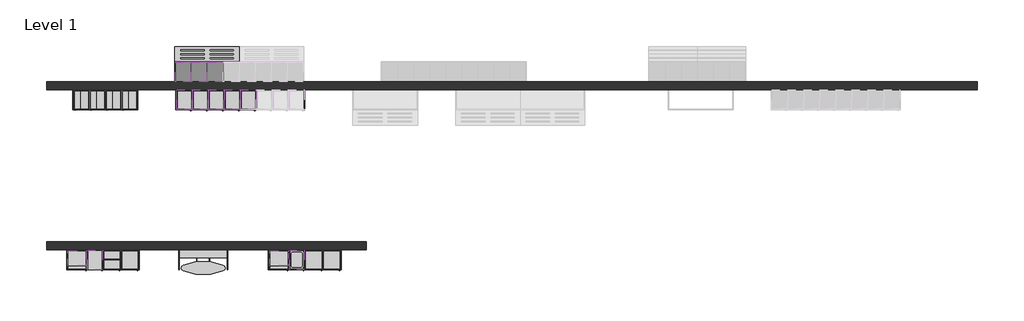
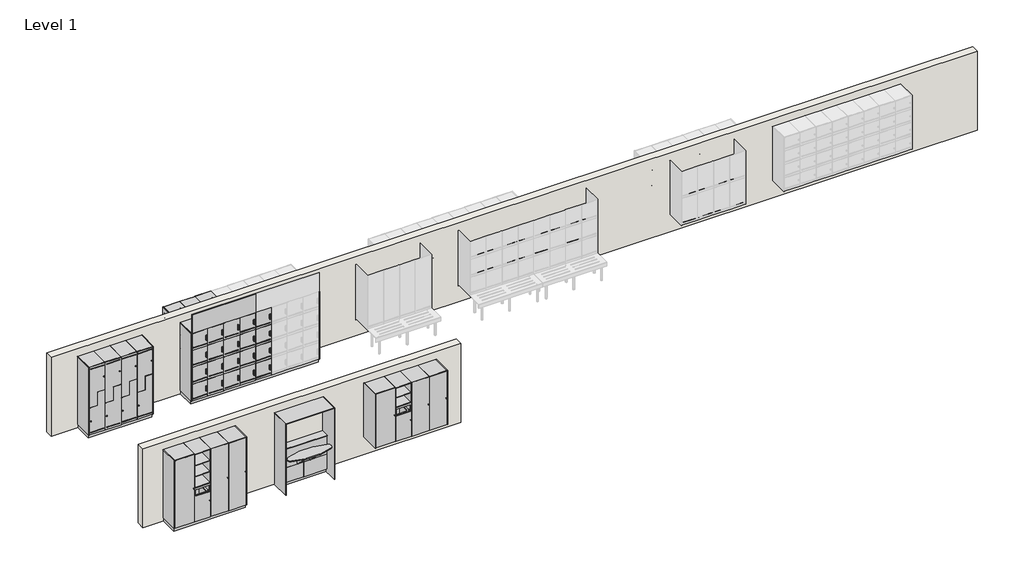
# One storey, part 1 of 3: 118 furniture elements, 2 walls.
"""IFC4 building model written with IfcOpenShell, lengths in millimetres."""

from ifc_helpers import new_model, si_unit, origin, origin_with_axes, place, context, project, spatial, polyline, outline, extrude, transform, mapped, element, save
from components import furniture_8c00c06e, furniture_f3d205c9, furniture_8214ae09, furniture_fe364a06, furniture_aa930519, standard_2dcb62da, standard_f5ae554c, standard_45df0485, standard_98e0e482, standard_d3161605, standard_4a91ac64, standard_77ee1bcb, standard_e3a21a26, standard_e2bbb5fc, standard_e0f8491c, standard_40445af7, standard_a614ba5f, standard_03c1f8a1, standard_9bb63482, standard_4930f884, standard_86fa131c, standard_540d4d76, standard_fa3f27c9, standard_7234d687, standard_b71e501f, standard_578dc294, standard_a6131b2d, standard_82cc17a7, standard_a539c340, standard_99a499ae, standard_25a9957e, standard_c490a989, standard_c9a665b5, standard_0a05bd14, standard_d1edd0f1, standard_a5c37325, standard_9a15c5b4

model = new_model("IFC4")

# Units and contexts
model_context = context("Model", 3, world=origin())
ifc_project = project(units=[si_unit("LENGTHUNIT", "METRE", prefix="MILLI")], contexts=[model_context])

# Site, building, storey
site = spatial("IfcSite", under=ifc_project)
building = spatial("IfcBuilding", under=site)
storey = spatial("IfcBuildingStorey", under=building, Name="Level 1", Elevation=0.0)

# Furniture
placement = place(None, origin())
furniture_shape = furniture_8c00c06e(model_context)
element("IfcFurniture", 1, ObjectType="Lockers-Bay-Duracube-Duraloc : LPM-1900h x 500d x 400w with 100h x 50d Plinth-Stepped", at=placement, inside=storey, context=model_context, shape_type="MappedRepresentation", body=[
    mapped(furniture_shape, transform((-10635.1575415, 2567.7422336, 0.0), x_axis=(1.0, 0.0, 0.0), y_axis=(0.0, 1.0, 0.0), z_axis=(0.0, 0.0, 1.0))),
])
furniture_2_shape = furniture_f3d205c9(model_context)
element("IfcFurniture", 2, ObjectType="Lockers-Bay-Duracube-Duraloc : LPM-1900h x 500d x 400w with 100h x 50d Plinth", at=placement, inside=storey, context=model_context, shape_type="MappedRepresentation", body=[
    mapped(furniture_2_shape, transform((-8055.1575415, 2567.7422336, 0.0), x_axis=(1.0, 0.0, 0.0), y_axis=(0.0, 1.0, 0.0), z_axis=(0.0, 0.0, 1.0))),
])
furniture_3_shape = furniture_8214ae09(model_context)
element("IfcFurniture", 3, ObjectType="Lockers-Bay-Duracube-Duraloc : LWM-1900h x 500d x 400w @ 470h Wall", at=placement, inside=storey, context=model_context, shape_type="MappedRepresentation", body=[
    mapped(furniture_3_shape, transform((-7668.1575415, 3267.7422336, 0.0), x_axis=(-1.0, 0.0, 0.0), y_axis=(0.0, -1.0, 0.0), z_axis=(0.0, 0.0, 1.0))),
])
furniture_4_shape = furniture_fe364a06(model_context)
element("IfcFurniture", 4, ObjectType="Lockers-Bay-Duracube-End of Trip : LPM-1900h x 500d with 100h x 50d Plinth", at=placement, inside=storey, context=model_context, shape_type="MappedRepresentation", body=[
    mapped(furniture_4_shape, transform((-10795.1575415, -1432.2577664, 0.0), x_axis=(1.0, 0.0, 0.0), y_axis=(0.0, 1.0, 0.0), z_axis=(0.0, 0.0, 1.0))),
])
furniture_5_shape = furniture_aa930519(model_context)
element("IfcFurniture", 5, ObjectType="Lockers-Bay-Duracube-End of Trip : LWM-1900h x 500d @ 470h Wall", at=placement, inside=storey, context=model_context, shape_type="MappedRepresentation", body=[
    mapped(furniture_5_shape, transform((-5743.1575415, -1432.2577664, 0.0), x_axis=(1.0, 0.0, 0.0), y_axis=(0.0, 1.0, 0.0), z_axis=(0.0, 0.0, 1.0))),
])
standard_shape = standard_2dcb62da(model_context)
element("IfcFurniture", 6, ObjectType="X_Bench-Foot-Duracube-Wall Assembly : Standard", at=placement, inside=storey, context=model_context, shape_type="MappedRepresentation", body=[
    mapped(standard_shape, transform((-7229.9572151, 3517.7422336, 0.0), x_axis=(-1.0, 0.0, 0.0), y_axis=(0.0, -1.0, 0.0), z_axis=(0.0, 0.0, 1.0))),
])
standard_2_shape = standard_f5ae554c(model_context)
element("IfcFurniture", 7, ObjectType="X_Bench-Foot-Duracube-Wall Assembly : Standard", at=placement, inside=storey, context=model_context, shape_type="MappedRepresentation", body=[
    mapped(standard_2_shape, transform((-8012.357868, 3517.7422336, 0.0), x_axis=(1.0, 0.0, 0.0), y_axis=(0.0, 1.0, 0.0), z_axis=(0.0, 0.0, 1.0))),
])
standard_3_shape = standard_45df0485(model_context)
element("IfcFurniture", 8, ObjectType="X_Vanity-Angle-Duracube-Bench Support : Standard", at=placement, inside=storey, context=model_context, shape_type="MappedRepresentation", body=[
    mapped(standard_3_shape, transform((-7229.9572151, 3017.7422336, 417.0), x_axis=(-1.0, 0.0, 0.0), y_axis=(0.0, -1.0, 0.0), z_axis=(0.0, 0.0, 1.0))),
])
standard_4_shape = standard_98e0e482(model_context)
element("IfcFurniture", 9, ObjectType="X_Bench-Wall-Duracube-Locker : Standard", at=placement, inside=storey, context=model_context, shape_type="MappedRepresentation", body=[
    mapped(standard_4_shape, transform((-7229.9572151, 3110.2422336, 0.0), x_axis=(-1.0, 0.0, 0.0), y_axis=(0.0, -1.0, 0.0), z_axis=(0.0, 0.0, 1.0))),
])
standard_5_shape = standard_d3161605(model_context)
element("IfcFurniture", 10, ObjectType="X_Locker-Duracube-Bay : Standard", at=placement, inside=storey, context=model_context, shape_type="MappedRepresentation", body=[
    mapped(standard_5_shape, transform((-9266.857868, 2817.7422336, 1180.0), x_axis=(1.0, 0.0, 0.0), y_axis=(0.0, 1.0, 0.0), z_axis=(0.0, 0.0, 1.0))),
])
element("IfcFurniture", 11, ObjectType="X_Locker-Duracube-Bay : Standard", at=placement, inside=storey, context=model_context, shape_type="MappedRepresentation", body=[
    mapped(standard_5_shape, transform((-9666.857868, 2817.7422336, 1180.0), x_axis=(1.0, 0.0, 0.0), y_axis=(0.0, 1.0, 0.0), z_axis=(0.0, 0.0, 1.0))),
])
element("IfcFurniture", 12, ObjectType="X_Locker-Duracube-Bay : Standard", at=placement, inside=storey, context=model_context, shape_type="MappedRepresentation", body=[
    mapped(standard_5_shape, transform((-10066.857868, 2817.7422336, 1180.0), x_axis=(1.0, 0.0, 0.0), y_axis=(0.0, 1.0, 0.0), z_axis=(0.0, 0.0, 1.0))),
])
element("IfcFurniture", 13, ObjectType="X_Locker-Duracube-Bay : Standard", at=placement, inside=storey, context=model_context, shape_type="MappedRepresentation", body=[
    mapped(standard_5_shape, transform((-10466.857868, 2817.7422336, 1180.0), x_axis=(1.0, 0.0, 0.0), y_axis=(0.0, 1.0, 0.0), z_axis=(0.0, 0.0, 1.0))),
])
standard_6_shape = standard_4a91ac64(model_context)
element("IfcFurniture", 14, ObjectType="X_Locker-Duracube-Door : Standard", at=placement, inside=storey, context=model_context, shape_type="MappedRepresentation", body=[
    mapped(standard_6_shape, transform((-9266.857868, 2330.7422336, 1180.0), x_axis=(1.0, 0.0, 0.0), y_axis=(0.0, 1.0, 0.0), z_axis=(0.0, 0.0, 1.0))),
])
element("IfcFurniture", 15, ObjectType="X_Locker-Duracube-Door : Standard", at=placement, inside=storey, context=model_context, shape_type="MappedRepresentation", body=[
    mapped(standard_6_shape, transform((-9666.857868, 2330.7422336, 1180.0), x_axis=(1.0, 0.0, 0.0), y_axis=(0.0, 1.0, 0.0), z_axis=(0.0, 0.0, 1.0))),
])
element("IfcFurniture", 16, ObjectType="X_Locker-Duracube-Door : Standard", at=placement, inside=storey, context=model_context, shape_type="MappedRepresentation", body=[
    mapped(standard_6_shape, transform((-10066.857868, 2330.7422336, 1180.0), x_axis=(1.0, 0.0, 0.0), y_axis=(0.0, 1.0, 0.0), z_axis=(0.0, 0.0, 1.0))),
])
element("IfcFurniture", 17, ObjectType="X_Locker-Duracube-Door : Standard", at=placement, inside=storey, context=model_context, shape_type="MappedRepresentation", body=[
    mapped(standard_6_shape, transform((-10466.857868, 2330.7422336, 1180.0), x_axis=(1.0, 0.0, 0.0), y_axis=(0.0, 1.0, 0.0), z_axis=(0.0, 0.0, 1.0))),
])
standard_7_shape = standard_77ee1bcb(model_context)
element("IfcFurniture", 18, ObjectType="X_Locker-Duracube-Bay : Standard", at=placement, inside=storey, context=model_context, shape_type="MappedRepresentation", body=[
    mapped(standard_7_shape, transform((-9266.857868, 2817.7422336, 100.0), x_axis=(1.0, 0.0, 0.0), y_axis=(0.0, 1.0, 0.0), z_axis=(0.0, 0.0, 1.0))),
])
element("IfcFurniture", 19, ObjectType="X_Locker-Duracube-Bay : Standard", at=placement, inside=storey, context=model_context, shape_type="MappedRepresentation", body=[
    mapped(standard_7_shape, transform((-9666.857868, 2817.7422336, 100.0), x_axis=(1.0, 0.0, 0.0), y_axis=(0.0, 1.0, 0.0), z_axis=(0.0, 0.0, 1.0))),
])
element("IfcFurniture", 20, ObjectType="X_Locker-Duracube-Bay : Standard", at=placement, inside=storey, context=model_context, shape_type="MappedRepresentation", body=[
    mapped(standard_7_shape, transform((-10066.857868, 2817.7422336, 100.0), x_axis=(1.0, 0.0, 0.0), y_axis=(0.0, 1.0, 0.0), z_axis=(0.0, 0.0, 1.0))),
])
element("IfcFurniture", 21, ObjectType="X_Locker-Duracube-Bay : Standard", at=placement, inside=storey, context=model_context, shape_type="MappedRepresentation", body=[
    mapped(standard_7_shape, transform((-10466.857868, 2817.7422336, 100.0), x_axis=(1.0, 0.0, 0.0), y_axis=(0.0, 1.0, 0.0), z_axis=(0.0, 0.0, 1.0))),
])
standard_8_shape = standard_e3a21a26(model_context)
element("IfcFurniture", 22, ObjectType="X_Locker-Duracube-Door : Standard", at=placement, inside=storey, context=model_context, shape_type="MappedRepresentation", body=[
    mapped(standard_8_shape, transform((-9266.857868, 2330.7422336, 100.0), x_axis=(1.0, 0.0, 0.0), y_axis=(0.0, 1.0, 0.0), z_axis=(0.0, 0.0, 1.0))),
])
element("IfcFurniture", 23, ObjectType="X_Locker-Duracube-Door : Standard", at=placement, inside=storey, context=model_context, shape_type="MappedRepresentation", body=[
    mapped(standard_8_shape, transform((-9666.857868, 2330.7422336, 100.0), x_axis=(1.0, 0.0, 0.0), y_axis=(0.0, 1.0, 0.0), z_axis=(0.0, 0.0, 1.0))),
])
element("IfcFurniture", 24, ObjectType="X_Locker-Duracube-Door : Standard", at=placement, inside=storey, context=model_context, shape_type="MappedRepresentation", body=[
    mapped(standard_8_shape, transform((-10066.857868, 2330.7422336, 100.0), x_axis=(1.0, 0.0, 0.0), y_axis=(0.0, 1.0, 0.0), z_axis=(0.0, 0.0, 1.0))),
])
element("IfcFurniture", 25, ObjectType="X_Locker-Duracube-Door : Standard", at=placement, inside=storey, context=model_context, shape_type="MappedRepresentation", body=[
    mapped(standard_8_shape, transform((-10466.857868, 2330.7422336, 100.0), x_axis=(1.0, 0.0, 0.0), y_axis=(0.0, 1.0, 0.0), z_axis=(0.0, 0.0, 1.0))),
])
standard_9_shape = standard_e2bbb5fc(model_context)
element("IfcFurniture", 26, ObjectType="X_Locker-Duracube-Bay : Standard", at=placement, inside=storey, context=model_context, shape_type="MappedRepresentation", body=[
    mapped(standard_9_shape, transform((-6286.857868, 2817.7422336, 1450.0), x_axis=(1.0, 0.0, 0.0), y_axis=(0.0, 1.0, 0.0), z_axis=(0.0, 0.0, 1.0))),
])
element("IfcFurniture", 27, ObjectType="X_Locker-Duracube-Bay : Standard", at=placement, inside=storey, context=model_context, shape_type="MappedRepresentation", body=[
    mapped(standard_9_shape, transform((-6686.857868, 2817.7422336, 1450.0), x_axis=(1.0, 0.0, 0.0), y_axis=(0.0, 1.0, 0.0), z_axis=(0.0, 0.0, 1.0))),
])
element("IfcFurniture", 28, ObjectType="X_Locker-Duracube-Bay : Standard", at=placement, inside=storey, context=model_context, shape_type="MappedRepresentation", body=[
    mapped(standard_9_shape, transform((-7086.857868, 2817.7422336, 1450.0), x_axis=(1.0, 0.0, 0.0), y_axis=(0.0, 1.0, 0.0), z_axis=(0.0, 0.0, 1.0))),
])
element("IfcFurniture", 29, ObjectType="X_Locker-Duracube-Bay : Standard", at=placement, inside=storey, context=model_context, shape_type="MappedRepresentation", body=[
    mapped(standard_9_shape, transform((-7486.857868, 2817.7422336, 1450.0), x_axis=(1.0, 0.0, 0.0), y_axis=(0.0, 1.0, 0.0), z_axis=(0.0, 0.0, 1.0))),
])
element("IfcFurniture", 30, ObjectType="X_Locker-Duracube-Bay : Standard", at=placement, inside=storey, context=model_context, shape_type="MappedRepresentation", body=[
    mapped(standard_9_shape, transform((-7886.857868, 2817.7422336, 1450.0), x_axis=(1.0, 0.0, 0.0), y_axis=(0.0, 1.0, 0.0), z_axis=(0.0, 0.0, 1.0))),
])
standard_10_shape = standard_e0f8491c(model_context)
element("IfcFurniture", 31, ObjectType="X_Locker-Duracube-Door : Standard", at=placement, inside=storey, context=model_context, shape_type="MappedRepresentation", body=[
    mapped(standard_10_shape, transform((-6286.857868, 2330.7422336, 1450.0), x_axis=(1.0, 0.0, 0.0), y_axis=(0.0, 1.0, 0.0), z_axis=(0.0, 0.0, 1.0))),
])
element("IfcFurniture", 32, ObjectType="X_Locker-Duracube-Door : Standard", at=placement, inside=storey, context=model_context, shape_type="MappedRepresentation", body=[
    mapped(standard_10_shape, transform((-6686.857868, 2330.7422336, 1450.0), x_axis=(1.0, 0.0, 0.0), y_axis=(0.0, 1.0, 0.0), z_axis=(0.0, 0.0, 1.0))),
])
element("IfcFurniture", 33, ObjectType="X_Locker-Duracube-Door : Standard", at=placement, inside=storey, context=model_context, shape_type="MappedRepresentation", body=[
    mapped(standard_10_shape, transform((-7086.857868, 2330.7422336, 1450.0), x_axis=(1.0, 0.0, 0.0), y_axis=(0.0, 1.0, 0.0), z_axis=(0.0, 0.0, 1.0))),
])
element("IfcFurniture", 34, ObjectType="X_Locker-Duracube-Door : Standard", at=placement, inside=storey, context=model_context, shape_type="MappedRepresentation", body=[
    mapped(standard_10_shape, transform((-7486.857868, 2330.7422336, 1450.0), x_axis=(1.0, 0.0, 0.0), y_axis=(0.0, 1.0, 0.0), z_axis=(0.0, 0.0, 1.0))),
])
element("IfcFurniture", 35, ObjectType="X_Locker-Duracube-Door : Standard", at=placement, inside=storey, context=model_context, shape_type="MappedRepresentation", body=[
    mapped(standard_10_shape, transform((-7886.857868, 2330.7422336, 1450.0), x_axis=(1.0, 0.0, 0.0), y_axis=(0.0, 1.0, 0.0), z_axis=(0.0, 0.0, 1.0))),
])
element("IfcFurniture", 36, ObjectType="X_Locker-Duracube-Bay : Standard", at=placement, inside=storey, context=model_context, shape_type="MappedRepresentation", body=[
    mapped(standard_9_shape, transform((-6286.857868, 2817.7422336, 1000.0), x_axis=(1.0, 0.0, 0.0), y_axis=(0.0, 1.0, 0.0), z_axis=(0.0, 0.0, 1.0))),
])
element("IfcFurniture", 37, ObjectType="X_Locker-Duracube-Bay : Standard", at=placement, inside=storey, context=model_context, shape_type="MappedRepresentation", body=[
    mapped(standard_9_shape, transform((-6686.857868, 2817.7422336, 1000.0), x_axis=(1.0, 0.0, 0.0), y_axis=(0.0, 1.0, 0.0), z_axis=(0.0, 0.0, 1.0))),
])
element("IfcFurniture", 38, ObjectType="X_Locker-Duracube-Bay : Standard", at=placement, inside=storey, context=model_context, shape_type="MappedRepresentation", body=[
    mapped(standard_9_shape, transform((-7086.857868, 2817.7422336, 1000.0), x_axis=(1.0, 0.0, 0.0), y_axis=(0.0, 1.0, 0.0), z_axis=(0.0, 0.0, 1.0))),
])
element("IfcFurniture", 39, ObjectType="X_Locker-Duracube-Bay : Standard", at=placement, inside=storey, context=model_context, shape_type="MappedRepresentation", body=[
    mapped(standard_9_shape, transform((-6286.857868, 2817.7422336, 100.0), x_axis=(1.0, 0.0, 0.0), y_axis=(0.0, 1.0, 0.0), z_axis=(0.0, 0.0, 1.0))),
])
element("IfcFurniture", 40, ObjectType="X_Locker-Duracube-Bay : Standard", at=placement, inside=storey, context=model_context, shape_type="MappedRepresentation", body=[
    mapped(standard_9_shape, transform((-6686.857868, 2817.7422336, 100.0), x_axis=(1.0, 0.0, 0.0), y_axis=(0.0, 1.0, 0.0), z_axis=(0.0, 0.0, 1.0))),
])
element("IfcFurniture", 41, ObjectType="X_Locker-Duracube-Bay : Standard", at=placement, inside=storey, context=model_context, shape_type="MappedRepresentation", body=[
    mapped(standard_9_shape, transform((-7086.857868, 2817.7422336, 100.0), x_axis=(1.0, 0.0, 0.0), y_axis=(0.0, 1.0, 0.0), z_axis=(0.0, 0.0, 1.0))),
])
element("IfcFurniture", 42, ObjectType="X_Locker-Duracube-Bay : Standard", at=placement, inside=storey, context=model_context, shape_type="MappedRepresentation", body=[
    mapped(standard_9_shape, transform((-7486.857868, 2817.7422336, 1000.0), x_axis=(1.0, 0.0, 0.0), y_axis=(0.0, 1.0, 0.0), z_axis=(0.0, 0.0, 1.0))),
])
element("IfcFurniture", 43, ObjectType="X_Locker-Duracube-Bay : Standard", at=placement, inside=storey, context=model_context, shape_type="MappedRepresentation", body=[
    mapped(standard_9_shape, transform((-7486.857868, 2817.7422336, 100.0), x_axis=(1.0, 0.0, 0.0), y_axis=(0.0, 1.0, 0.0), z_axis=(0.0, 0.0, 1.0))),
])
element("IfcFurniture", 44, ObjectType="X_Locker-Duracube-Bay : Standard", at=placement, inside=storey, context=model_context, shape_type="MappedRepresentation", body=[
    mapped(standard_9_shape, transform((-7886.857868, 2817.7422336, 1000.0), x_axis=(1.0, 0.0, 0.0), y_axis=(0.0, 1.0, 0.0), z_axis=(0.0, 0.0, 1.0))),
])
element("IfcFurniture", 45, ObjectType="X_Locker-Duracube-Bay : Standard", at=placement, inside=storey, context=model_context, shape_type="MappedRepresentation", body=[
    mapped(standard_9_shape, transform((-7886.857868, 2817.7422336, 100.0), x_axis=(1.0, 0.0, 0.0), y_axis=(0.0, 1.0, 0.0), z_axis=(0.0, 0.0, 1.0))),
])
element("IfcFurniture", 46, ObjectType="X_Locker-Duracube-Door : Standard", at=placement, inside=storey, context=model_context, shape_type="MappedRepresentation", body=[
    mapped(standard_10_shape, transform((-6286.857868, 2330.7422336, 1000.0), x_axis=(1.0, 0.0, 0.0), y_axis=(0.0, 1.0, 0.0), z_axis=(0.0, 0.0, 1.0))),
])
element("IfcFurniture", 47, ObjectType="X_Locker-Duracube-Door : Standard", at=placement, inside=storey, context=model_context, shape_type="MappedRepresentation", body=[
    mapped(standard_10_shape, transform((-6686.857868, 2330.7422336, 1000.0), x_axis=(1.0, 0.0, 0.0), y_axis=(0.0, 1.0, 0.0), z_axis=(0.0, 0.0, 1.0))),
])
element("IfcFurniture", 48, ObjectType="X_Locker-Duracube-Door : Standard", at=placement, inside=storey, context=model_context, shape_type="MappedRepresentation", body=[
    mapped(standard_10_shape, transform((-7086.857868, 2330.7422336, 1000.0), x_axis=(1.0, 0.0, 0.0), y_axis=(0.0, 1.0, 0.0), z_axis=(0.0, 0.0, 1.0))),
])
element("IfcFurniture", 49, ObjectType="X_Locker-Duracube-Door : Standard", at=placement, inside=storey, context=model_context, shape_type="MappedRepresentation", body=[
    mapped(standard_10_shape, transform((-6286.857868, 2330.7422336, 100.0), x_axis=(1.0, 0.0, 0.0), y_axis=(0.0, 1.0, 0.0), z_axis=(0.0, 0.0, 1.0))),
])
element("IfcFurniture", 50, ObjectType="X_Locker-Duracube-Door : Standard", at=placement, inside=storey, context=model_context, shape_type="MappedRepresentation", body=[
    mapped(standard_10_shape, transform((-6686.857868, 2330.7422336, 100.0), x_axis=(1.0, 0.0, 0.0), y_axis=(0.0, 1.0, 0.0), z_axis=(0.0, 0.0, 1.0))),
])
element("IfcFurniture", 51, ObjectType="X_Locker-Duracube-Door : Standard", at=placement, inside=storey, context=model_context, shape_type="MappedRepresentation", body=[
    mapped(standard_10_shape, transform((-7086.857868, 2330.7422336, 100.0), x_axis=(1.0, 0.0, 0.0), y_axis=(0.0, 1.0, 0.0), z_axis=(0.0, 0.0, 1.0))),
])
element("IfcFurniture", 52, ObjectType="X_Locker-Duracube-Door : Standard", at=placement, inside=storey, context=model_context, shape_type="MappedRepresentation", body=[
    mapped(standard_10_shape, transform((-7486.857868, 2330.7422336, 1000.0), x_axis=(1.0, 0.0, 0.0), y_axis=(0.0, 1.0, 0.0), z_axis=(0.0, 0.0, 1.0))),
])
element("IfcFurniture", 53, ObjectType="X_Locker-Duracube-Door : Standard", at=placement, inside=storey, context=model_context, shape_type="MappedRepresentation", body=[
    mapped(standard_10_shape, transform((-7486.857868, 2330.7422336, 100.0), x_axis=(1.0, 0.0, 0.0), y_axis=(0.0, 1.0, 0.0), z_axis=(0.0, 0.0, 1.0))),
])
element("IfcFurniture", 54, ObjectType="X_Locker-Duracube-Door : Standard", at=placement, inside=storey, context=model_context, shape_type="MappedRepresentation", body=[
    mapped(standard_10_shape, transform((-7886.857868, 2330.7422336, 1000.0), x_axis=(1.0, 0.0, 0.0), y_axis=(0.0, 1.0, 0.0), z_axis=(0.0, 0.0, 1.0))),
])
element("IfcFurniture", 55, ObjectType="X_Locker-Duracube-Door : Standard", at=placement, inside=storey, context=model_context, shape_type="MappedRepresentation", body=[
    mapped(standard_10_shape, transform((-7886.857868, 2330.7422336, 100.0), x_axis=(1.0, 0.0, 0.0), y_axis=(0.0, 1.0, 0.0), z_axis=(0.0, 0.0, 1.0))),
])
element("IfcFurniture", 56, ObjectType="X_Locker-Duracube-Bay : Standard", at=placement, inside=storey, context=model_context, shape_type="MappedRepresentation", body=[
    mapped(standard_9_shape, transform((-6286.857868, 2817.7422336, 550.0), x_axis=(1.0, 0.0, 0.0), y_axis=(0.0, 1.0, 0.0), z_axis=(0.0, 0.0, 1.0))),
])
element("IfcFurniture", 57, ObjectType="X_Locker-Duracube-Bay : Standard", at=placement, inside=storey, context=model_context, shape_type="MappedRepresentation", body=[
    mapped(standard_9_shape, transform((-6686.857868, 2817.7422336, 550.0), x_axis=(1.0, 0.0, 0.0), y_axis=(0.0, 1.0, 0.0), z_axis=(0.0, 0.0, 1.0))),
])
element("IfcFurniture", 58, ObjectType="X_Locker-Duracube-Bay : Standard", at=placement, inside=storey, context=model_context, shape_type="MappedRepresentation", body=[
    mapped(standard_9_shape, transform((-7086.857868, 2817.7422336, 550.0), x_axis=(1.0, 0.0, 0.0), y_axis=(0.0, 1.0, 0.0), z_axis=(0.0, 0.0, 1.0))),
])
element("IfcFurniture", 59, ObjectType="X_Locker-Duracube-Bay : Standard", at=placement, inside=storey, context=model_context, shape_type="MappedRepresentation", body=[
    mapped(standard_9_shape, transform((-7486.857868, 2817.7422336, 550.0), x_axis=(1.0, 0.0, 0.0), y_axis=(0.0, 1.0, 0.0), z_axis=(0.0, 0.0, 1.0))),
])
element("IfcFurniture", 60, ObjectType="X_Locker-Duracube-Bay : Standard", at=placement, inside=storey, context=model_context, shape_type="MappedRepresentation", body=[
    mapped(standard_9_shape, transform((-7886.857868, 2817.7422336, 550.0), x_axis=(1.0, 0.0, 0.0), y_axis=(0.0, 1.0, 0.0), z_axis=(0.0, 0.0, 1.0))),
])
element("IfcFurniture", 61, ObjectType="X_Locker-Duracube-Door : Standard", at=placement, inside=storey, context=model_context, shape_type="MappedRepresentation", body=[
    mapped(standard_10_shape, transform((-6286.857868, 2330.7422336, 550.0), x_axis=(1.0, 0.0, 0.0), y_axis=(0.0, 1.0, 0.0), z_axis=(0.0, 0.0, 1.0))),
])
element("IfcFurniture", 62, ObjectType="X_Locker-Duracube-Door : Standard", at=placement, inside=storey, context=model_context, shape_type="MappedRepresentation", body=[
    mapped(standard_10_shape, transform((-6686.857868, 2330.7422336, 550.0), x_axis=(1.0, 0.0, 0.0), y_axis=(0.0, 1.0, 0.0), z_axis=(0.0, 0.0, 1.0))),
])
element("IfcFurniture", 63, ObjectType="X_Locker-Duracube-Door : Standard", at=placement, inside=storey, context=model_context, shape_type="MappedRepresentation", body=[
    mapped(standard_10_shape, transform((-7086.857868, 2330.7422336, 550.0), x_axis=(1.0, 0.0, 0.0), y_axis=(0.0, 1.0, 0.0), z_axis=(0.0, 0.0, 1.0))),
])
element("IfcFurniture", 64, ObjectType="X_Locker-Duracube-Door : Standard", at=placement, inside=storey, context=model_context, shape_type="MappedRepresentation", body=[
    mapped(standard_10_shape, transform((-7486.857868, 2330.7422336, 550.0), x_axis=(1.0, 0.0, 0.0), y_axis=(0.0, 1.0, 0.0), z_axis=(0.0, 0.0, 1.0))),
])
element("IfcFurniture", 65, ObjectType="X_Locker-Duracube-Door : Standard", at=placement, inside=storey, context=model_context, shape_type="MappedRepresentation", body=[
    mapped(standard_10_shape, transform((-7886.857868, 2330.7422336, 550.0), x_axis=(1.0, 0.0, 0.0), y_axis=(0.0, 1.0, 0.0), z_axis=(0.0, 0.0, 1.0))),
])
standard_11_shape = standard_40445af7(model_context)
element("IfcFurniture", 66, ObjectType="X_Locker-Duracube-Bay : Standard", at=placement, inside=storey, context=model_context, shape_type="MappedRepresentation", body=[
    mapped(standard_11_shape, transform((-7023.4572151, 3017.7422336, 827.5), x_axis=(-1.0, 0.0, 0.0), y_axis=(0.0, -1.0, 0.0), z_axis=(0.0, 0.0, 1.0))),
])
element("IfcFurniture", 67, ObjectType="X_Locker-Duracube-Bay : Standard", at=placement, inside=storey, context=model_context, shape_type="MappedRepresentation", body=[
    mapped(standard_11_shape, transform((-7023.4572151, 3017.7422336, 1542.5), x_axis=(-1.0, 0.0, 0.0), y_axis=(0.0, -1.0, 0.0), z_axis=(0.0, 0.0, 1.0))),
])
element("IfcFurniture", 68, ObjectType="X_Locker-Duracube-Bay : Standard", at=placement, inside=storey, context=model_context, shape_type="MappedRepresentation", body=[
    mapped(standard_11_shape, transform((-7423.4572151, 3017.7422336, 470.0), x_axis=(-1.0, 0.0, 0.0), y_axis=(0.0, -1.0, 0.0), z_axis=(0.0, 0.0, 1.0))),
])
element("IfcFurniture", 69, ObjectType="X_Locker-Duracube-Bay : Standard", at=placement, inside=storey, context=model_context, shape_type="MappedRepresentation", body=[
    mapped(standard_11_shape, transform((-7423.4572151, 3017.7422336, 1185.0), x_axis=(-1.0, 0.0, 0.0), y_axis=(0.0, -1.0, 0.0), z_axis=(0.0, 0.0, 1.0))),
])
element("IfcFurniture", 70, ObjectType="X_Locker-Duracube-Bay : Standard", at=placement, inside=storey, context=model_context, shape_type="MappedRepresentation", body=[
    mapped(standard_11_shape, transform((-7823.4572151, 3017.7422336, 827.5), x_axis=(-1.0, 0.0, 0.0), y_axis=(0.0, -1.0, 0.0), z_axis=(0.0, 0.0, 1.0))),
])
element("IfcFurniture", 71, ObjectType="X_Locker-Duracube-Bay : Standard", at=placement, inside=storey, context=model_context, shape_type="MappedRepresentation", body=[
    mapped(standard_11_shape, transform((-7823.4572151, 3017.7422336, 1542.5), x_axis=(-1.0, 0.0, 0.0), y_axis=(0.0, -1.0, 0.0), z_axis=(0.0, 0.0, 1.0))),
])
standard_12_shape = standard_a614ba5f(model_context)
element("IfcFurniture", 72, ObjectType="X_Locker-Duracube-Door : Standard", at=placement, inside=storey, context=model_context, shape_type="MappedRepresentation", body=[
    mapped(standard_12_shape, transform((-7023.4572151, 3504.7422336, 827.5), x_axis=(-1.0, 0.0, 0.0), y_axis=(0.0, -1.0, 0.0), z_axis=(0.0, 0.0, 1.0))),
])
element("IfcFurniture", 73, ObjectType="X_Locker-Duracube-Door : Standard", at=placement, inside=storey, context=model_context, shape_type="MappedRepresentation", body=[
    mapped(standard_12_shape, transform((-7023.4572151, 3504.7422336, 1542.5), x_axis=(-1.0, 0.0, 0.0), y_axis=(0.0, -1.0, 0.0), z_axis=(0.0, 0.0, 1.0))),
])
element("IfcFurniture", 74, ObjectType="X_Locker-Duracube-Door : Standard", at=placement, inside=storey, context=model_context, shape_type="MappedRepresentation", body=[
    mapped(standard_12_shape, transform((-7423.4572151, 3504.7422336, 470.0), x_axis=(-1.0, 0.0, 0.0), y_axis=(0.0, -1.0, 0.0), z_axis=(0.0, 0.0, 1.0))),
])
element("IfcFurniture", 75, ObjectType="X_Locker-Duracube-Door : Standard", at=placement, inside=storey, context=model_context, shape_type="MappedRepresentation", body=[
    mapped(standard_12_shape, transform((-7423.4572151, 3504.7422336, 1185.0), x_axis=(-1.0, 0.0, 0.0), y_axis=(0.0, -1.0, 0.0), z_axis=(0.0, 0.0, 1.0))),
])
element("IfcFurniture", 76, ObjectType="X_Locker-Duracube-Door : Standard", at=placement, inside=storey, context=model_context, shape_type="MappedRepresentation", body=[
    mapped(standard_12_shape, transform((-7823.4572151, 3504.7422336, 827.5), x_axis=(-1.0, 0.0, 0.0), y_axis=(0.0, -1.0, 0.0), z_axis=(0.0, 0.0, 1.0))),
])
element("IfcFurniture", 77, ObjectType="X_Locker-Duracube-Door : Standard", at=placement, inside=storey, context=model_context, shape_type="MappedRepresentation", body=[
    mapped(standard_12_shape, transform((-7823.4572151, 3504.7422336, 1542.5), x_axis=(-1.0, 0.0, 0.0), y_axis=(0.0, -1.0, 0.0), z_axis=(0.0, 0.0, 1.0))),
])
element("IfcFurniture", 78, ObjectType="X_Locker-Duracube-Bay : Standard", at=placement, inside=storey, context=model_context, shape_type="MappedRepresentation", body=[
    mapped(standard_11_shape, transform((-6223.4572151, 3017.7422336, 470.0), x_axis=(-1.0, 0.0, 0.0), y_axis=(0.0, -1.0, 0.0), z_axis=(0.0, 0.0, 1.0))),
])
element("IfcFurniture", 79, ObjectType="X_Locker-Duracube-Bay : Standard", at=placement, inside=storey, context=model_context, shape_type="MappedRepresentation", body=[
    mapped(standard_11_shape, transform((-7023.4572151, 3017.7422336, 470.0), x_axis=(-1.0, 0.0, 0.0), y_axis=(0.0, -1.0, 0.0), z_axis=(0.0, 0.0, 1.0))),
])
element("IfcFurniture", 80, ObjectType="X_Locker-Duracube-Bay : Standard", at=placement, inside=storey, context=model_context, shape_type="MappedRepresentation", body=[
    mapped(standard_11_shape, transform((-7423.4572151, 3017.7422336, 827.5), x_axis=(-1.0, 0.0, 0.0), y_axis=(0.0, -1.0, 0.0), z_axis=(0.0, 0.0, 1.0))),
])
element("IfcFurniture", 81, ObjectType="X_Locker-Duracube-Bay : Standard", at=placement, inside=storey, context=model_context, shape_type="MappedRepresentation", body=[
    mapped(standard_11_shape, transform((-7823.4572151, 3017.7422336, 1185.0), x_axis=(-1.0, 0.0, 0.0), y_axis=(0.0, -1.0, 0.0), z_axis=(0.0, 0.0, 1.0))),
])
element("IfcFurniture", 82, ObjectType="X_Locker-Duracube-Door : Standard", at=placement, inside=storey, context=model_context, shape_type="MappedRepresentation", body=[
    mapped(standard_12_shape, transform((-7023.4572151, 3504.7422336, 470.0), x_axis=(-1.0, 0.0, 0.0), y_axis=(0.0, -1.0, 0.0), z_axis=(0.0, 0.0, 1.0))),
])
element("IfcFurniture", 83, ObjectType="X_Locker-Duracube-Door : Standard", at=placement, inside=storey, context=model_context, shape_type="MappedRepresentation", body=[
    mapped(standard_12_shape, transform((-7423.4572151, 3504.7422336, 827.5), x_axis=(-1.0, 0.0, 0.0), y_axis=(0.0, -1.0, 0.0), z_axis=(0.0, 0.0, 1.0))),
])
element("IfcFurniture", 84, ObjectType="X_Locker-Duracube-Door : Standard", at=placement, inside=storey, context=model_context, shape_type="MappedRepresentation", body=[
    mapped(standard_12_shape, transform((-7823.4572151, 3504.7422336, 1185.0), x_axis=(-1.0, 0.0, 0.0), y_axis=(0.0, -1.0, 0.0), z_axis=(0.0, 0.0, 1.0))),
])
element("IfcFurniture", 85, ObjectType="X_Locker-Duracube-Bay : Standard", at=placement, inside=storey, context=model_context, shape_type="MappedRepresentation", body=[
    mapped(standard_11_shape, transform((-7023.4572151, 3017.7422336, 1185.0), x_axis=(-1.0, 0.0, 0.0), y_axis=(0.0, -1.0, 0.0), z_axis=(0.0, 0.0, 1.0))),
])
element("IfcFurniture", 86, ObjectType="X_Locker-Duracube-Bay : Standard", at=placement, inside=storey, context=model_context, shape_type="MappedRepresentation", body=[
    mapped(standard_11_shape, transform((-7423.4572151, 3017.7422336, 1542.5), x_axis=(-1.0, 0.0, 0.0), y_axis=(0.0, -1.0, 0.0), z_axis=(0.0, 0.0, 1.0))),
])
element("IfcFurniture", 87, ObjectType="X_Locker-Duracube-Bay : Standard", at=placement, inside=storey, context=model_context, shape_type="MappedRepresentation", body=[
    mapped(standard_11_shape, transform((-7823.4572151, 3017.7422336, 470.0), x_axis=(-1.0, 0.0, 0.0), y_axis=(0.0, -1.0, 0.0), z_axis=(0.0, 0.0, 1.0))),
])
element("IfcFurniture", 88, ObjectType="X_Locker-Duracube-Door : Standard", at=placement, inside=storey, context=model_context, shape_type="MappedRepresentation", body=[
    mapped(standard_12_shape, transform((-7023.4572151, 3504.7422336, 1185.0), x_axis=(-1.0, 0.0, 0.0), y_axis=(0.0, -1.0, 0.0), z_axis=(0.0, 0.0, 1.0))),
])
element("IfcFurniture", 89, ObjectType="X_Locker-Duracube-Door : Standard", at=placement, inside=storey, context=model_context, shape_type="MappedRepresentation", body=[
    mapped(standard_12_shape, transform((-7423.4572151, 3504.7422336, 1542.5), x_axis=(-1.0, 0.0, 0.0), y_axis=(0.0, -1.0, 0.0), z_axis=(0.0, 0.0, 1.0))),
])
element("IfcFurniture", 90, ObjectType="X_Locker-Duracube-Door : Standard", at=placement, inside=storey, context=model_context, shape_type="MappedRepresentation", body=[
    mapped(standard_12_shape, transform((-7823.4572151, 3504.7422336, 470.0), x_axis=(-1.0, 0.0, 0.0), y_axis=(0.0, -1.0, 0.0), z_axis=(0.0, 0.0, 1.0))),
])
standard_13_shape = standard_03c1f8a1(model_context)
element("IfcFurniture", 91, ObjectType="X_Locker-Duracube-Shelf : Standard", at=placement, inside=storey, context=model_context, shape_type="MappedRepresentation", body=[
    mapped(standard_13_shape, transform((-10576.857868, -795.7577664, 1493.0), x_axis=(1.0, 0.0, 0.0), y_axis=(0.0, 1.0, 0.0), z_axis=(0.0, 0.0, 1.0))),
])
element("IfcFurniture", 92, ObjectType="X_Locker-Duracube-Shelf : Standard", at=placement, inside=storey, context=model_context, shape_type="MappedRepresentation", body=[
    mapped(standard_13_shape, transform((-10576.857868, -795.7577664, 1087.0), x_axis=(1.0, 0.0, 0.0), y_axis=(0.0, 1.0, 0.0), z_axis=(0.0, 0.0, 1.0))),
])
element("IfcFurniture", 93, ObjectType="X_Locker-Duracube-Shelf : Standard", at=placement, inside=storey, context=model_context, shape_type="MappedRepresentation", body=[
    mapped(standard_13_shape, transform((-5524.857868, -795.7577664, 1493.0), x_axis=(1.0, 0.0, 0.0), y_axis=(0.0, 1.0, 0.0), z_axis=(0.0, 0.0, 1.0))),
])
element("IfcFurniture", 94, ObjectType="X_Locker-Duracube-Shelf : Standard", at=placement, inside=storey, context=model_context, shape_type="MappedRepresentation", body=[
    mapped(standard_13_shape, transform((-5524.857868, -795.7577664, 1087.0), x_axis=(1.0, 0.0, 0.0), y_axis=(0.0, 1.0, 0.0), z_axis=(0.0, 0.0, 1.0))),
])
standard_14_shape = standard_9bb63482(model_context)
element("IfcFurniture", 95, ObjectType="X_Locker-Duracube-Shelf : Standard", at=placement, inside=storey, context=model_context, shape_type="MappedRepresentation", body=[
    mapped(standard_14_shape, transform((-10576.857868, -876.7577664, 664.0), x_axis=(1.0, 0.0, 0.0), y_axis=(0.0, 1.0, 0.0), z_axis=(0.0, 0.0, 1.0))),
])
standard_15_shape = standard_4930f884(model_context)
element("IfcFurniture", 96, ObjectType="X_Locker-Duracube-Door : Standard", at=placement, inside=storey, context=model_context, shape_type="MappedRepresentation", body=[
    mapped(standard_15_shape, transform((-10576.857868, -1669.2577664, 100.0), x_axis=(1.0, 0.0, 0.0), y_axis=(0.0, 1.0, 0.0), z_axis=(0.0, 0.0, 1.0))),
])
standard_16_shape = standard_86fa131c(model_context)
element("IfcFurniture", 97, ObjectType="X_Locker-Duracube-Door : Standard", at=placement, inside=storey, context=model_context, shape_type="MappedRepresentation", body=[
    mapped(standard_16_shape, transform((-5524.857868, -1669.2577664, 470.0), x_axis=(1.0, 0.0, 0.0), y_axis=(0.0, 1.0, 0.0), z_axis=(0.0, 0.0, 1.0))),
])
standard_17_shape = standard_540d4d76(model_context)
element("IfcFurniture", 98, ObjectType="X_Locker-Duracube-EOT Bay : Standard", at=placement, inside=storey, context=model_context, shape_type="MappedRepresentation", body=[
    mapped(standard_17_shape, transform((-10576.857868, -1182.2577664, 100.0), x_axis=(1.0, 0.0, 0.0), y_axis=(0.0, 1.0, 0.0), z_axis=(0.0, 0.0, 1.0))),
])
standard_18_shape = standard_fa3f27c9(model_context)
element("IfcFurniture", 99, ObjectType="X_Locker-Duracube-EOT Bay : Standard", at=placement, inside=storey, context=model_context, shape_type="MappedRepresentation", body=[
    mapped(standard_18_shape, transform((-5524.857868, -1182.2577664, 470.0), x_axis=(1.0, 0.0, 0.0), y_axis=(0.0, 1.0, 0.0), z_axis=(0.0, 0.0, 1.0))),
])
standard_19_shape = standard_7234d687(model_context)
element("IfcFurniture", 100, ObjectType="X_Locker-Duracube-EOT Bay : Standard", at=placement, inside=storey, context=model_context, shape_type="MappedRepresentation", body=[
    mapped(standard_19_shape, transform((-10126.857868, -1182.2577664, 100.0), x_axis=(1.0, 0.0, 0.0), y_axis=(0.0, 1.0, 0.0), z_axis=(0.0, 0.0, 1.0))),
])
standard_20_shape = standard_b71e501f(model_context)
element("IfcFurniture", 101, ObjectType="X_Locker-Duracube-Shelf : Standard", at=placement, inside=storey, context=model_context, shape_type="MappedRepresentation", body=[
    mapped(standard_20_shape, transform((-10126.857868, -889.7577664, 1294.6666667), x_axis=(1.0, 0.0, 0.0), y_axis=(0.0, 1.0, 0.0), z_axis=(0.0, 0.0, 1.0))),
])
element("IfcFurniture", 102, ObjectType="X_Locker-Duracube-Shelf : Standard", at=placement, inside=storey, context=model_context, shape_type="MappedRepresentation", body=[
    mapped(standard_20_shape, transform((-10126.857868, -889.7577664, 1589.3333333), x_axis=(1.0, 0.0, 0.0), y_axis=(0.0, 1.0, 0.0), z_axis=(0.0, 0.0, 1.0))),
])
element("IfcFurniture", 103, ObjectType="X_Locker-Duracube-Shelf : Standard", at=placement, inside=storey, context=model_context, shape_type="MappedRepresentation", body=[
    mapped(standard_20_shape, transform((-5074.857868, -889.7577664, 1627.0), x_axis=(1.0, 0.0, 0.0), y_axis=(0.0, 1.0, 0.0), z_axis=(0.0, 0.0, 1.0))),
])
standard_21_shape = standard_578dc294(model_context)
element("IfcFurniture", 104, ObjectType="X_Locker-Duracube-EOT Bay : Standard", at=placement, inside=storey, context=model_context, shape_type="MappedRepresentation", body=[
    mapped(standard_21_shape, transform((-9701.857868, -1182.2577664, 100.0), x_axis=(1.0, 0.0, 0.0), y_axis=(0.0, 1.0, 0.0), z_axis=(0.0, 0.0, 1.0))),
])
standard_22_shape = standard_a6131b2d(model_context)
element("IfcFurniture", 105, ObjectType="X_Locker-Duracube-Door : Standard", at=placement, inside=storey, context=model_context, shape_type="MappedRepresentation", body=[
    mapped(standard_22_shape, transform((-9701.857868, -1669.2577664, 100.0), x_axis=(1.0, 0.0, 0.0), y_axis=(0.0, 1.0, 0.0), z_axis=(0.0, 0.0, 1.0))),
])
element("IfcFurniture", 106, ObjectType="X_Locker-Duracube-Door : Standard", at=placement, inside=storey, context=model_context, shape_type="MappedRepresentation", body=[
    mapped(standard_22_shape, transform((-9251.857868, -1669.2577664, 100.0), x_axis=(1.0, 0.0, 0.0), y_axis=(0.0, 1.0, 0.0), z_axis=(0.0, 0.0, 1.0))),
])
standard_23_shape = standard_82cc17a7(model_context)
element("IfcFurniture", 107, ObjectType="X_Locker-Duracube-EOT Bay : Standard", at=placement, inside=storey, context=model_context, shape_type="MappedRepresentation", body=[
    mapped(standard_23_shape, transform((-9251.857868, -1182.2577664, 100.0), x_axis=(1.0, 0.0, 0.0), y_axis=(0.0, 1.0, 0.0), z_axis=(0.0, 0.0, 1.0))),
])
standard_24_shape = standard_a539c340(model_context)
element("IfcFurniture", 108, ObjectType="X_Locker-Duracube-EOT Bay : Standard", at=placement, inside=storey, context=model_context, shape_type="MappedRepresentation", body=[
    mapped(standard_24_shape, transform((-5074.857868, -1182.2577664, 470.0), x_axis=(1.0, 0.0, 0.0), y_axis=(0.0, 1.0, 0.0), z_axis=(0.0, 0.0, 1.0))),
])
standard_25_shape = standard_99a499ae(model_context)
element("IfcFurniture", 109, ObjectType="X_Locker-Duracube-EOT Bay : Standard", at=placement, inside=storey, context=model_context, shape_type="MappedRepresentation", body=[
    mapped(standard_25_shape, transform((-4649.857868, -1182.2577664, 470.0), x_axis=(1.0, 0.0, 0.0), y_axis=(0.0, 1.0, 0.0), z_axis=(0.0, 0.0, 1.0))),
])
standard_26_shape = standard_25a9957e(model_context)
element("IfcFurniture", 110, ObjectType="X_Locker-Duracube-Door : Standard", at=placement, inside=storey, context=model_context, shape_type="MappedRepresentation", body=[
    mapped(standard_26_shape, transform((-4649.857868, -1669.2577664, 470.0), x_axis=(1.0, 0.0, 0.0), y_axis=(0.0, 1.0, 0.0), z_axis=(0.0, 0.0, 1.0))),
])
element("IfcFurniture", 111, ObjectType="X_Locker-Duracube-Door : Standard", at=placement, inside=storey, context=model_context, shape_type="MappedRepresentation", body=[
    mapped(standard_26_shape, transform((-4199.857868, -1669.2577664, 470.0), x_axis=(1.0, 0.0, 0.0), y_axis=(0.0, 1.0, 0.0), z_axis=(0.0, 0.0, 1.0))),
])
element("IfcFurniture", 112, ObjectType="X_Locker-Duracube-EOT Bay : Standard", at=placement, inside=storey, context=model_context, shape_type="MappedRepresentation", body=[
    mapped(standard_25_shape, transform((-4199.857868, -1182.2577664, 470.0), x_axis=(1.0, 0.0, 0.0), y_axis=(0.0, 1.0, 0.0), z_axis=(0.0, 0.0, 1.0))),
])
standard_27_shape = standard_c490a989(model_context)
element("IfcFurniture", 113, ObjectType="X_Locker-Duracube-Panel : Standard", at=placement, inside=storey, context=model_context, shape_type="MappedRepresentation", body=[
    mapped(standard_27_shape, transform((-7281.857868, 2330.7422336, 1900.0), x_axis=(1.0, 0.0, 0.0), y_axis=(0.0, 1.0, 0.0), z_axis=(0.0, 0.0, 1.0))),
])
standard_28_shape = standard_c9a665b5(model_context)
element("IfcFurniture", 114, ObjectType="X_Locker-Duracube-Fixed Ironing Kitset : Standard", at=placement, inside=storey, context=model_context, shape_type="MappedRepresentation", body=[
    mapped(standard_28_shape, transform((-7419.857868, -1487.2577664, 875.0), x_axis=(1.0, 0.0, 0.0), y_axis=(0.0, 1.0, 0.0), z_axis=(0.0, 0.0, 1.0))),
])
standard_29_shape = standard_0a05bd14(model_context)
element("IfcFurniture", 115, ObjectType="Locker-Bay-Duracube-Fixed Ironing Board Unit : Standard", at=placement, inside=storey, context=model_context, shape_type="MappedRepresentation", body=[
    mapped(standard_29_shape, transform((-7419.857868, -1182.2577664, 0.0), x_axis=(1.0, 0.0, 0.0), y_axis=(0.0, 1.0, 0.0), z_axis=(0.0, 0.0, 1.0))),
])
standard_30_shape = standard_d1edd0f1(model_context)
element("IfcFurniture", 116, ObjectType="X_Locker-Duracube-Door : Standard", at=placement, inside=storey, context=model_context, shape_type="MappedRepresentation", body=[
    mapped(standard_30_shape, transform((-7719.857868, -1369.2577664, 100.0), x_axis=(1.0, 0.0, 0.0), y_axis=(0.0, 1.0, 0.0), z_axis=(0.0, 0.0, 1.0))),
])
standard_31_shape = standard_a5c37325(model_context)
element("IfcFurniture", 117, ObjectType="X_Locker-Duracube-Door : Standard", at=placement, inside=storey, context=model_context, shape_type="MappedRepresentation", body=[
    mapped(standard_31_shape, transform((-7030.4572151, -1369.2577664, 100.0), x_axis=(-1.0, 0.0, 0.0), y_axis=(0.0, -1.0, 0.0), z_axis=(0.0, 0.0, 1.0))),
])
standard_32_shape = standard_9a15c5b4(model_context)
element("IfcFurniture", 118, ObjectType="X_Locker-Duracube-Panel : Standard", at=placement, inside=storey, context=model_context, shape_type="MappedRepresentation", body=[
    mapped(standard_32_shape, transform((-8084.357868, 2330.7422336, 1900.0), x_axis=(1.0, 0.0, 0.0), y_axis=(0.0, 1.0, 0.0), z_axis=(0.0, 0.0, 1.0))),
])

# Walls
element("IfcWall", 119, ObjectType="Generic - 200mm", at=placement, inside=storey, context=model_context, shape_type="SweptSolid", body=[
    extrude(outline(polyline([(12004.8424585, 2817.7422336), (-11295.1575415, 2817.7422336), (-11295.1575415, 3017.7422336), (12004.8424585, 3017.7422336), (12004.8424585, 2817.7422336)])), origin_with_axes(), (0.0, 0.0, 1.0), 2100.0),
])
element("IfcWall", 120, ObjectType="Generic - 200mm", at=placement, inside=storey, context=model_context, shape_type="SweptSolid", body=[
    extrude(outline(polyline([(-3295.1575415, -1182.2577664), (-11295.1575415, -1182.2577664), (-11295.1575415, -982.2577664), (-3295.1575415, -982.2577664), (-3295.1575415, -1182.2577664)])), origin_with_axes(), (0.0, 0.0, 1.0), 2100.0),
])

save(model, "model.ifc")
